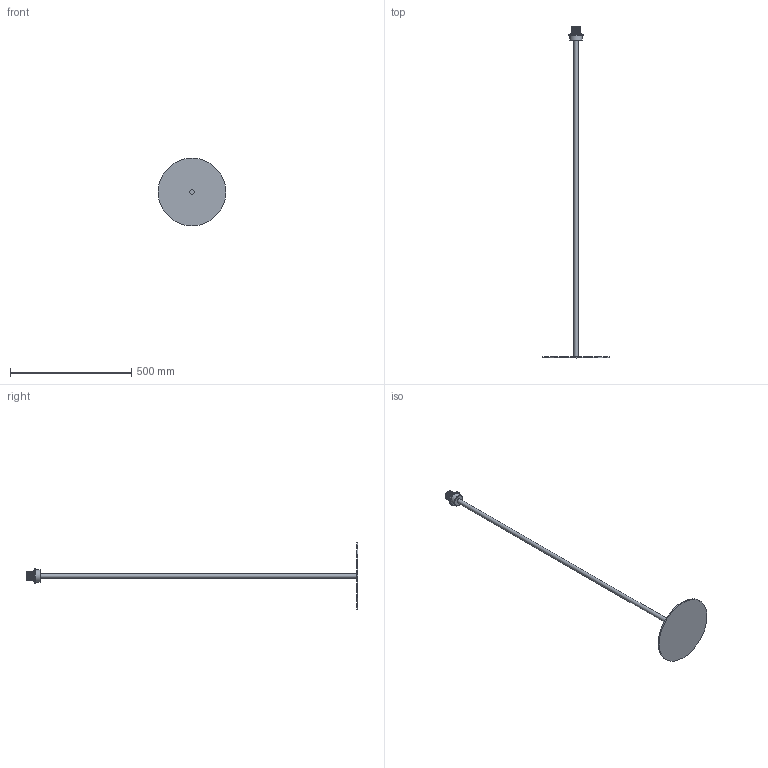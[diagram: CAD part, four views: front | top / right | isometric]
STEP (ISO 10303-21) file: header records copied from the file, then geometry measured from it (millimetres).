
FILE_DESCRIPTION(/* description */ (''),/* implementation_level */ '2;1');
FILE_NAME(/* name */ 'C:/Users/kubaw/OneDrive/Pulpit/Nowy folder/8912_WINSTON v6/5103_WINSTON v6.step',/* time_stamp */ '2021-03-13T09:59:43+01:00',/* author */ (''),/* organization */ (''),/* preprocessor_version */ 'ST-DEVELOPER v18.1',/* originating_system */ 'Autodesk Translation Framework v9.10.0.1330',/* authorisation */ '');
FILE_SCHEMA (('AUTOMOTIVE_DESIGN { 1 0 10303 214 3 1 1 }'));
Length unit declared in the file: millimetre
Products named in the file (1): 5103_WINSTON
Bounding box: 280 x 1370 x 280 mm (x, y, z)
Volume: 704366.7 mm3; surface area: 228546.5 mm2
Topology: 11 solids, 11 shells, 111 faces, 232 edges, 143 vertices
Faces by surface type: cylinder 51, plane 42, sphere 10, bspline 6, torus 2
Full cylindrical faces by diameter (mm): 18 x1, 32 x1, 34.939 x13, 42 x1, 50 x1, 60 x1, 280 x1
Entity records: 9667 total; most frequent: CARTESIAN_POINT 7332, DIRECTION 466, ORIENTED_EDGE 464, EDGE_CURVE 232, AXIS2_PLACEMENT_3D 183, VERTEX_POINT 143, EDGE_LOOP 113, FACE_OUTER_BOUND 111
